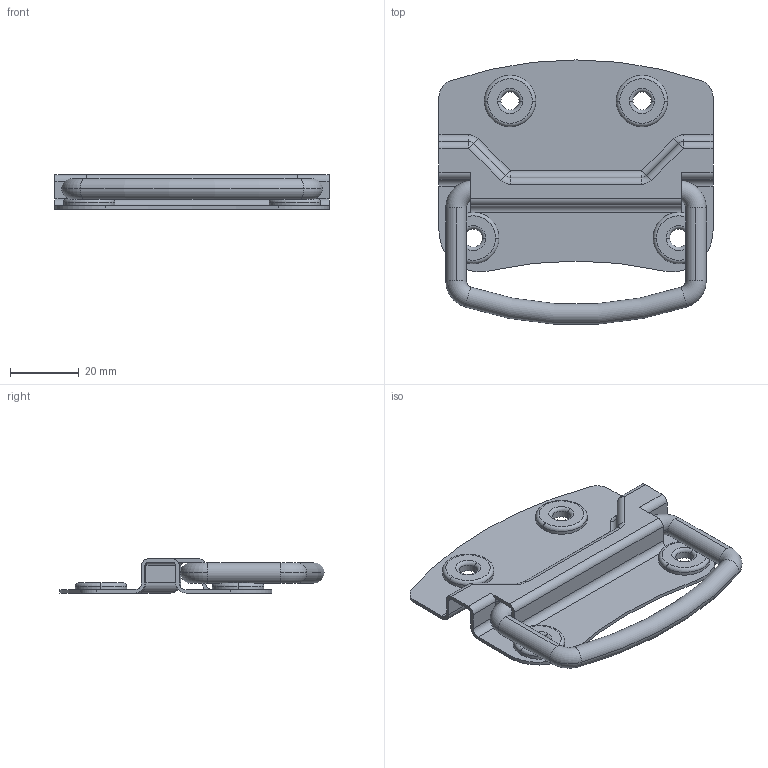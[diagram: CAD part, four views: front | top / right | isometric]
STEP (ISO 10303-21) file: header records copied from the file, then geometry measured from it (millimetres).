
FILE_DESCRIPTION (( 'STEP AP203' ), '1' );
FILE_NAME ('A-3103.STEP', '2015-11-18T03:47:56', ( '' ), ( '' ), 'SwSTEP 2.0', 'SolidWorks 2014', '' );
FILE_SCHEMA (( 'CONFIG_CONTROL_DESIGN' ));
Length unit declared in the file: millimetre
Products named in the file (1): A-3103
Bounding box: 80 x 77.12 x 10 mm (x, y, z)
Volume: 11078.9 mm3; surface area: 16059.7 mm2
Topology: 2 solids, 2 shells, 174 faces, 430 edges, 254 vertices
Faces by surface type: cylinder 86, plane 38, torus 34, cone 8, sphere 8
Entity records: 5213 total; most frequent: DIRECTION 1012, CARTESIAN_POINT 857, ORIENTED_EDGE 844, EDGE_CURVE 422, AXIS2_PLACEMENT_3D 417, VERTEX_POINT 254, CIRCLE 242, EDGE_LOOP 188
